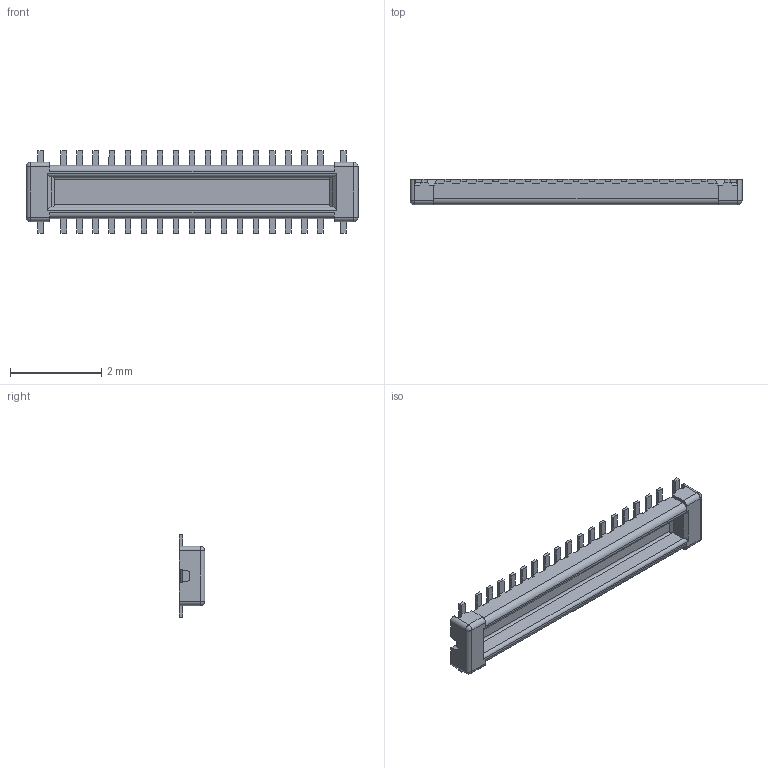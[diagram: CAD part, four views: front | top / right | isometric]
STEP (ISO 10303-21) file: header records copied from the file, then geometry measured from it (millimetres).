
FILE_DESCRIPTION (( 'STEP AP203' ), '1' );
FILE_NAME ('20708-034E-01 PLUG ASSY STEP R1 ALL.STEP', '2025-02-21T04:47:42', ( '' ), ( '' ), 'SwSTEP 2.0', 'SolidWorks 2023', '' );
FILE_SCHEMA (( 'CONFIG_CONTROL_DESIGN' ));
Length unit declared in the file: millimetre
Products named in the file (1): 20708-034E-01 PLUG ASSY STEP R1 ALL
Bounding box: 7.26 x 0.56 x 1.8 mm (x, y, z)
Volume: 2.9 mm3; surface area: 36.7 mm2
Topology: 1 solids, 1 shells, 397 faces, 1090 edges, 692 vertices
Faces by surface type: plane 377, cylinder 16, sphere 4
Entity records: 12273 total; most frequent: CARTESIAN_POINT 2200, ORIENTED_EDGE 2172, DIRECTION 1898, EDGE_CURVE 1086, LINE 1054, VECTOR 1054, VERTEX_POINT 692, AXIS2_PLACEMENT_3D 422
